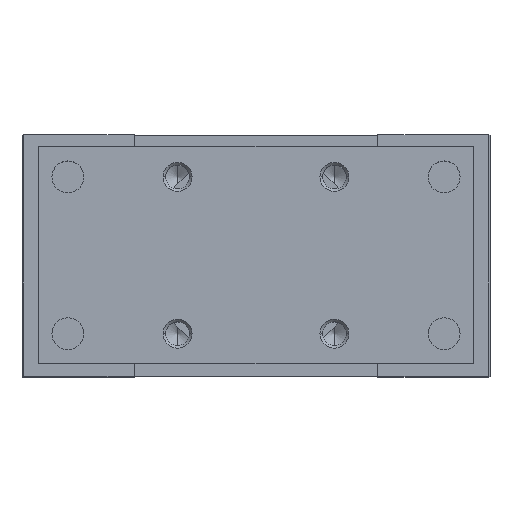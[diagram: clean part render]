
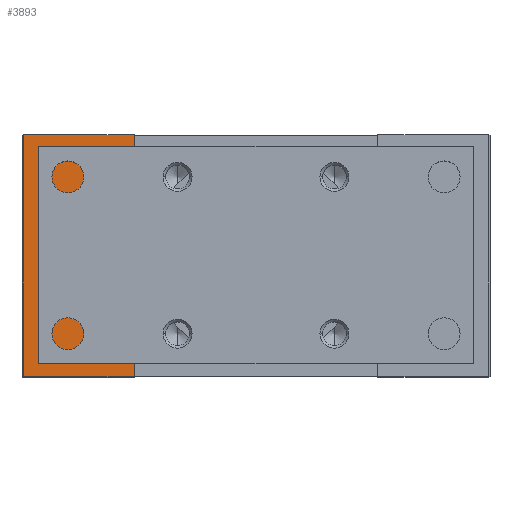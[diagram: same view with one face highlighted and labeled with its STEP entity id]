
A CAD part, top view. The second image highlights one B-rep face of the part: STEP entity #3893.
In plain terms, the highlighted planar face has unit normal (0, 0, 1).
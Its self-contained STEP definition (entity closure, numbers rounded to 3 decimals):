
#43 = DIRECTION ( 'NONE',  ( 0., 0., 1. ) ) ;
#304 = CARTESIAN_POINT ( 'NONE',  ( -48.2, -25., 49. ) ) ;
#378 = DIRECTION ( 'NONE',  ( 0., 0., -1. ) ) ;
#527 = DIRECTION ( 'NONE',  ( 1., 0., 0. ) ) ;
#950 = EDGE_CURVE ( 'NONE', #8812, #5624, #9100, .T. ) ;
#1242 = ORIENTED_EDGE ( 'NONE', *, *, #950, .F. ) ;
#1407 = EDGE_CURVE ( 'NONE', #2467, #11143, #8287, .T. ) ;
#1541 = CARTESIAN_POINT ( 'NONE',  ( -48.5, -25., 49. ) ) ;
#1770 = VECTOR ( 'NONE', #527, 1000. ) ;
#2120 = CARTESIAN_POINT ( 'NONE',  ( -25.25, 25., 49. ) ) ;
#2467 = VERTEX_POINT ( 'NONE', #2720 ) ;
#2720 = CARTESIAN_POINT ( 'NONE',  ( -31., 0., 49. ) ) ;
#2878 = EDGE_LOOP ( 'NONE', ( #4282, #4407 ) ) ;
#3215 = EDGE_LOOP ( 'NONE', ( #1242, #6777, #8781, #5566 ) ) ;
#3264 = EDGE_CURVE ( 'NONE', #4722, #3830, #8310, .T. ) ;
#3474 = DIRECTION ( 'NONE',  ( 1., 0., 0. ) ) ;
#3504 = CARTESIAN_POINT ( 'NONE',  ( -37., 0., 49. ) ) ;
#3607 = CARTESIAN_POINT ( 'NONE',  ( -25.25, -25., 49. ) ) ;
#3830 = VERTEX_POINT ( 'NONE', #3607 ) ;
#3893 = ADVANCED_FACE ( 'NONE', ( #8221, #7148 ), #8114, .F. ) ;
#4070 = EDGE_CURVE ( 'NONE', #8812, #4722, #5847, .T. ) ;
#4156 = DIRECTION ( 'NONE',  ( 0., -1., 0. ) ) ;
#4282 = ORIENTED_EDGE ( 'NONE', *, *, #7595, .F. ) ;
#4328 = CARTESIAN_POINT ( 'NONE',  ( -37., 0., 49. ) ) ;
#4407 = ORIENTED_EDGE ( 'NONE', *, *, #1407, .F. ) ;
#4722 = VERTEX_POINT ( 'NONE', #304 ) ;
#5566 = ORIENTED_EDGE ( 'NONE', *, *, #8836, .F. ) ;
#5624 = VERTEX_POINT ( 'NONE', #2120 ) ;
#5701 = LINE ( 'NONE', #6602, #11055 ) ;
#5847 = LINE ( 'NONE', #6641, #9657 ) ;
#5874 = VECTOR ( 'NONE', #8199, 1000. ) ;
#6027 = DIRECTION ( 'NONE',  ( 0., -1., 0. ) ) ;
#6260 = DIRECTION ( 'NONE',  ( 1., 0., 0. ) ) ;
#6465 = AXIS2_PLACEMENT_3D ( 'NONE', #3504, #7796, #6260 ) ;
#6487 = CARTESIAN_POINT ( 'NONE',  ( -48.2, 25., 49. ) ) ;
#6602 = CARTESIAN_POINT ( 'NONE',  ( -25.25, 25., 49. ) ) ;
#6641 = CARTESIAN_POINT ( 'NONE',  ( -48.2, 50., 49. ) ) ;
#6777 = ORIENTED_EDGE ( 'NONE', *, *, #4070, .T. ) ;
#7121 = AXIS2_PLACEMENT_3D ( 'NONE', #9801, #378, #10819 ) ;
#7148 = FACE_BOUND ( 'NONE', #2878, .T. ) ;
#7544 = CIRCLE ( 'NONE', #6465, 6. ) ;
#7595 = EDGE_CURVE ( 'NONE', #11143, #2467, #7544, .T. ) ;
#7796 = DIRECTION ( 'NONE',  ( 0., 0., 1. ) ) ;
#8114 = PLANE ( 'NONE',  #7121 ) ;
#8199 = DIRECTION ( 'NONE',  ( 1., 0., 0. ) ) ;
#8221 = FACE_OUTER_BOUND ( 'NONE', #3215, .T. ) ;
#8287 = CIRCLE ( 'NONE', #9914, 6. ) ;
#8310 = LINE ( 'NONE', #1541, #5874 ) ;
#8781 = ORIENTED_EDGE ( 'NONE', *, *, #3264, .T. ) ;
#8812 = VERTEX_POINT ( 'NONE', #6487 ) ;
#8836 = EDGE_CURVE ( 'NONE', #5624, #3830, #5701, .T. ) ;
#9100 = LINE ( 'NONE', #10963, #1770 ) ;
#9657 = VECTOR ( 'NONE', #4156, 1000. ) ;
#9801 = CARTESIAN_POINT ( 'NONE',  ( -48.5, 25., 49. ) ) ;
#9914 = AXIS2_PLACEMENT_3D ( 'NONE', #4328, #43, #3474 ) ;
#10791 = CARTESIAN_POINT ( 'NONE',  ( -43., 0., 49. ) ) ;
#10819 = DIRECTION ( 'NONE',  ( 0., -1., 0. ) ) ;
#10963 = CARTESIAN_POINT ( 'NONE',  ( -48.5, 25., 49. ) ) ;
#11055 = VECTOR ( 'NONE', #6027, 1000. ) ;
#11143 = VERTEX_POINT ( 'NONE', #10791 ) ;
